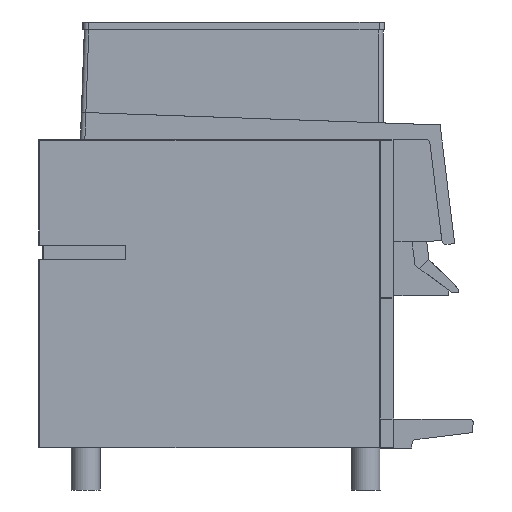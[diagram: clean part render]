
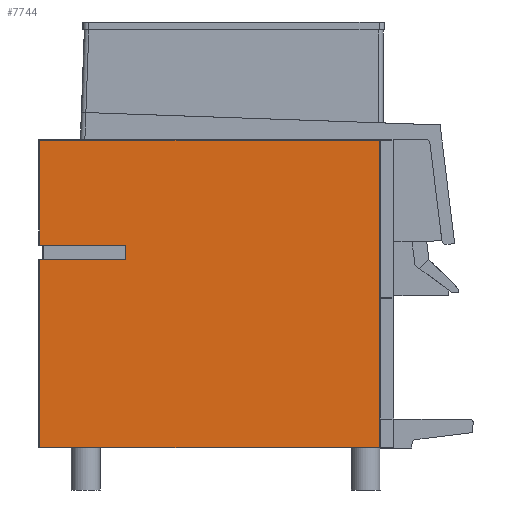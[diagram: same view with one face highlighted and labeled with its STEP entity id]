
A CAD part, left-side view. The second image highlights one B-rep face of the part: STEP entity #7744.
In plain terms, the highlighted planar face has unit normal (-1, 0, 0).
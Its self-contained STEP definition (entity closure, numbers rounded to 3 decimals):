
#394=LINE('',#10710,#1030);
#454=LINE('',#10849,#1090);
#455=LINE('',#10851,#1091);
#456=LINE('',#10853,#1092);
#457=LINE('',#10855,#1093);
#458=LINE('',#10857,#1094);
#459=LINE('',#10859,#1095);
#460=LINE('',#10861,#1096);
#461=LINE('',#10863,#1097);
#462=LINE('',#10865,#1098);
#1030=VECTOR('',#8942,1000.);
#1090=VECTOR('',#9064,1000.);
#1091=VECTOR('',#9065,1000.);
#1092=VECTOR('',#9066,1000.);
#1093=VECTOR('',#9067,1000.);
#1094=VECTOR('',#9068,1000.);
#1095=VECTOR('',#9069,1000.);
#1096=VECTOR('',#9070,1000.);
#1097=VECTOR('',#9071,1000.);
#1098=VECTOR('',#9072,1000.);
#1885=ORIENTED_EDGE('',*,*,#3410,.F.);
#1886=ORIENTED_EDGE('',*,*,#3480,.T.);
#1887=ORIENTED_EDGE('',*,*,#3481,.T.);
#1888=ORIENTED_EDGE('',*,*,#3482,.T.);
#1889=ORIENTED_EDGE('',*,*,#3483,.F.);
#1890=ORIENTED_EDGE('',*,*,#3484,.F.);
#1891=ORIENTED_EDGE('',*,*,#3485,.F.);
#1892=ORIENTED_EDGE('',*,*,#3486,.T.);
#1893=ORIENTED_EDGE('',*,*,#3487,.T.);
#1894=ORIENTED_EDGE('',*,*,#3488,.T.);
#3410=EDGE_CURVE('',#4205,#4206,#394,.T.);
#3480=EDGE_CURVE('',#4205,#4254,#454,.T.);
#3481=EDGE_CURVE('',#4254,#4255,#455,.F.);
#3482=EDGE_CURVE('',#4255,#4256,#456,.F.);
#3483=EDGE_CURVE('',#4257,#4256,#457,.T.);
#3484=EDGE_CURVE('',#4258,#4257,#458,.T.);
#3485=EDGE_CURVE('',#4259,#4258,#459,.T.);
#3486=EDGE_CURVE('',#4259,#4260,#460,.T.);
#3487=EDGE_CURVE('',#4260,#4261,#461,.T.);
#3488=EDGE_CURVE('',#4261,#4206,#462,.F.);
#4205=VERTEX_POINT('',#10709);
#4206=VERTEX_POINT('',#10711);
#4254=VERTEX_POINT('',#10850);
#4255=VERTEX_POINT('',#10852);
#4256=VERTEX_POINT('',#10854);
#4257=VERTEX_POINT('',#10856);
#4258=VERTEX_POINT('',#10858);
#4259=VERTEX_POINT('',#10860);
#4260=VERTEX_POINT('',#10862);
#4261=VERTEX_POINT('',#10864);
#4725=EDGE_LOOP('',(#1885,#1886,#1887,#1888,#1889,#1890,#1891,#1892,#1893,
#1894));
#5056=FACE_BOUND('',#4725,.T.);
#5365=PLANE('',#8150);
#7744=ADVANCED_FACE('',(#5056),#5365,.F.);
#8150=AXIS2_PLACEMENT_3D('',#10848,#9062,#9063);
#8942=DIRECTION('',(0.,1.,0.));
#9062=DIRECTION('',(1.,0.,0.));
#9063=DIRECTION('',(0.,1.,0.));
#9064=DIRECTION('',(0.,0.,1.));
#9065=DIRECTION('',(0.,-1.,0.));
#9066=DIRECTION('',(0.,0.,1.));
#9067=DIRECTION('',(0.,1.,0.));
#9068=DIRECTION('',(0.,1.,0.));
#9069=DIRECTION('',(0.,0.,1.));
#9070=DIRECTION('',(0.,1.,0.));
#9071=DIRECTION('',(0.,1.,0.));
#9072=DIRECTION('',(0.,0.,1.));
#10709=CARTESIAN_POINT('',(-114.,-470.,0.));
#10710=CARTESIAN_POINT('',(-114.,-490.,0.));
#10711=CARTESIAN_POINT('',(-114.,-1.2,0.));
#10848=CARTESIAN_POINT('',(-114.,0.,0.));
#10849=CARTESIAN_POINT('',(-114.,-470.,420.5));
#10850=CARTESIAN_POINT('',(-114.,-470.,424.8));
#10851=CARTESIAN_POINT('',(-114.,0.,424.8));
#10852=CARTESIAN_POINT('',(-114.,-1.2,424.8));
#10853=CARTESIAN_POINT('',(-114.,-1.2,0.));
#10854=CARTESIAN_POINT('',(-114.,-1.2,280.));
#10855=CARTESIAN_POINT('',(-114.,-5.,280.));
#10856=CARTESIAN_POINT('',(-114.,-5.133,280.));
#10857=CARTESIAN_POINT('',(-114.,-120.,280.));
#10858=CARTESIAN_POINT('',(-114.,-120.,280.));
#10859=CARTESIAN_POINT('',(-114.,-120.,260.));
#10860=CARTESIAN_POINT('',(-114.,-120.,260.));
#10861=CARTESIAN_POINT('',(-114.,-120.,260.));
#10862=CARTESIAN_POINT('',(-114.,-5.133,260.));
#10863=CARTESIAN_POINT('',(-114.,-5.,260.));
#10864=CARTESIAN_POINT('',(-114.,-1.2,260.));
#10865=CARTESIAN_POINT('',(-114.,-1.2,0.));
